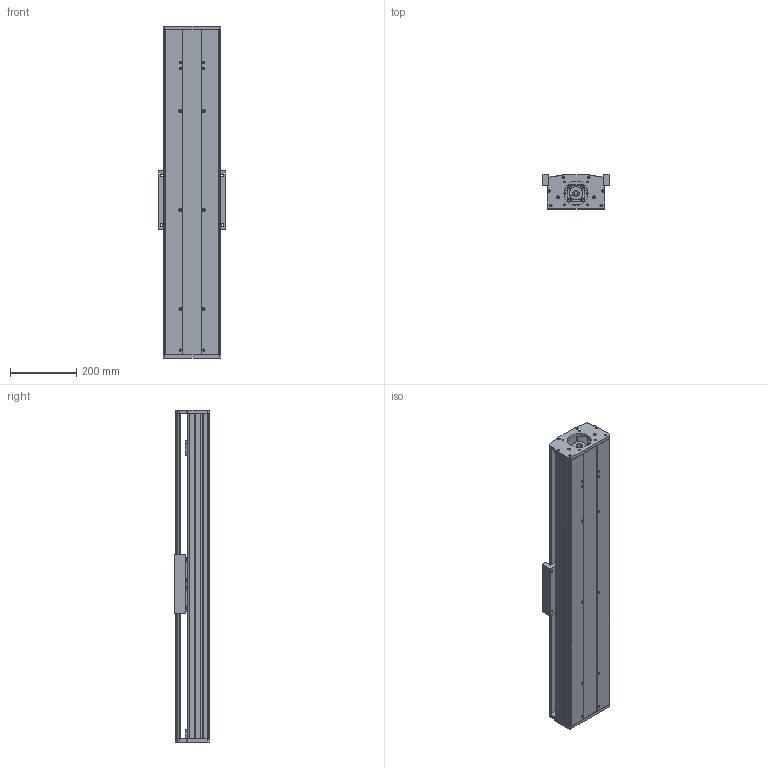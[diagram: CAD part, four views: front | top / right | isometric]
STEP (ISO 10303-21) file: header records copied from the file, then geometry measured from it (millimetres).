
FILE_DESCRIPTION (( 'STEP AP203' ), '1' );
FILE_NAME ('CF175-1-P650.STEP', '2016-02-23T06:51:21', ( 'Sky123.Org' ), ( 'Sky123.Org' ), 'SwSTEP 2.0', 'SolidWorks 2015', '' );
FILE_SCHEMA (( 'CONFIG_CONTROL_DESIGN' ));
Length unit declared in the file: millimetre
Products named in the file (23): CF175-1175臏倰第; BF; CF-HGH20CA賑輸; 1; deep groove ball bearings gb_Rolling bearings 6004 GB 276-94; 175賑雄啣; 蝶菜; BF20蚾饜极1; BK20; 40-66; cf175-SFS2525蹟譫釱; 綴杶; HGR20絳寢-1140; SFU2510-BK20+BF20; ヶ杶; SFU2510-4; 175-1-86祭輛萇儂釱; 粣創裔; CF175-1-P650; 175-1耜啣; angular contact ball bearings gb_Rolling bearings S7004 GB 292-94; CF175-1175裔啣; BK20蚾饜极1
Assembly tree (28 placements, depth 3):
  CF175-1-P650
    CF-HGH20CA賑輸  x4
    175賑雄啣
    BK20蚾饜极1
      BK20
      綴杶
      ヶ杶
      粣創裔
      angular contact ball bearings gb_Rolling bearings S7004 GB 292-94  x2
    BF20蚾饜极1
      BF
      deep groove ball bearings gb_Rolling bearings 6004 GB 276-94
    cf175-SFS2525蹟譫釱
    SFU2510-BK20+BF20
    175-1-86祭輛萇儂釱
    175-1耜啣
    CF175-1175裔啣
    CF175-1175臏倰第
    40-66
      1  x2
      蝶菜
    HGR20絳寢-1140  x2
    SFU2510-4
Bounding box: 200 x 107.5 x 1005 mm (x, y, z)
Volume: 7968585 mm3; surface area: 2127245.6 mm2
Topology: 29 solids, 29 shells, 1708 faces, 5254 edges, 3502 vertices
Faces by surface type: cylinder 734, plane 688, torus 168, sphere 96, cone 20, bspline 2
Entity records: 52152 total; most frequent: CARTESIAN_POINT 16383, ORIENTED_EDGE 7128, DIRECTION 6843, EDGE_CURVE 3564, AXIS2_PLACEMENT_3D 2650, VERTEX_POINT 2373, LINE 1543, VECTOR 1543
